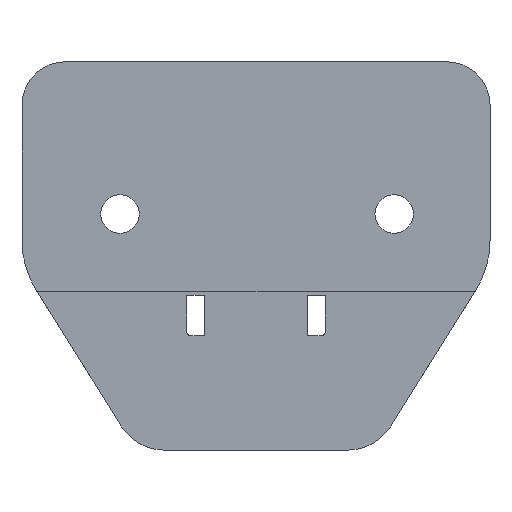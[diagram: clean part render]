
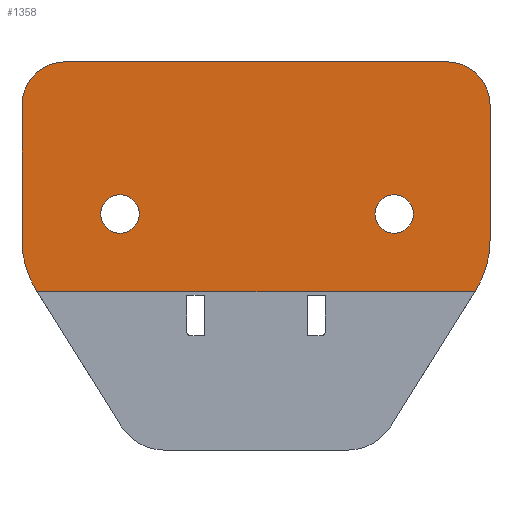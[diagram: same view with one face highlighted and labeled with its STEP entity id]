
A CAD part, front view. The second image highlights one B-rep face of the part: STEP entity #1358.
In plain terms, the highlighted planar face has unit normal (0, -1, 0).
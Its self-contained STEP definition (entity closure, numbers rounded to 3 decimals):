
#48 = CARTESIAN_POINT ( 'NONE',  ( -3.193, -12.743, -3.995 ) ) ;
#59 = DIRECTION ( 'NONE',  ( 0.53, 0., 0.848 ) ) ;
#82 = CIRCLE ( 'NONE', #2235, 11. ) ;
#94 = DIRECTION ( 'NONE',  ( 0., 1., 0. ) ) ;
#117 = AXIS2_PLACEMENT_3D ( 'NONE', #1435, #94, #1649 ) ;
#125 = CARTESIAN_POINT ( 'NONE',  ( -45.122, -12.743, 1.834 ) ) ;
#151 = CARTESIAN_POINT ( 'NONE',  ( -12.693, -12.743, 4.93 ) ) ;
#166 = LINE ( 'NONE', #606, #2458 ) ;
#249 = CIRCLE ( 'NONE', #1148, 2.245 ) ;
#271 = DIRECTION ( 'NONE',  ( 0., -1., 0. ) ) ;
#273 = CIRCLE ( 'NONE', #1701, 2.245 ) ;
#281 = CARTESIAN_POINT ( 'NONE',  ( -14.939, -12.743, 4.93 ) ) ;
#287 = VECTOR ( 'NONE', #1803, 1000. ) ;
#328 = VERTEX_POINT ( 'NONE', #499 ) ;
#339 = AXIS2_PLACEMENT_3D ( 'NONE', #783, #1254, #997 ) ;
#391 = CARTESIAN_POINT ( 'NONE',  ( -51.122, -12.743, 22.68 ) ) ;
#414 = EDGE_CURVE ( 'NONE', #2600, #952, #1440, .T. ) ;
#459 = ORIENTED_EDGE ( 'NONE', *, *, #676, .T. ) ;
#462 = VERTEX_POINT ( 'NONE', #1443 ) ;
#499 = CARTESIAN_POINT ( 'NONE',  ( -1.522, -12.743, 17.68 ) ) ;
#515 = EDGE_CURVE ( 'NONE', #983, #2154, #1740, .T. ) ;
#593 = VERTEX_POINT ( 'NONE', #2016 ) ;
#606 = CARTESIAN_POINT ( 'NONE',  ( -51.122, -12.743, 22.68 ) ) ;
#653 = EDGE_CURVE ( 'NONE', #1490, #593, #1017, .T. ) ;
#676 = EDGE_CURVE ( 'NONE', #462, #2290, #2554, .T. ) ;
#678 = DIRECTION ( 'NONE',  ( 1., 0., 0. ) ) ;
#693 = CARTESIAN_POINT ( 'NONE',  ( -46.939, -12.743, 4.93 ) ) ;
#729 = EDGE_CURVE ( 'NONE', #1287, #2600, #2351, .T. ) ;
#783 = CARTESIAN_POINT ( 'NONE',  ( -6.522, -12.743, 17.68 ) ) ;
#831 = FACE_BOUND ( 'NONE', #1407, .T. ) ;
#877 = CARTESIAN_POINT ( 'NONE',  ( -56.122, -12.743, 1.834 ) ) ;
#880 = LINE ( 'NONE', #1236, #287 ) ;
#887 = CARTESIAN_POINT ( 'NONE',  ( -56.122, -12.743, 17.68 ) ) ;
#897 = FACE_OUTER_BOUND ( 'NONE', #1629, .T. ) ;
#901 = VERTEX_POINT ( 'NONE', #1512 ) ;
#930 = ORIENTED_EDGE ( 'NONE', *, *, #1116, .F. ) ;
#952 = VERTEX_POINT ( 'NONE', #391 ) ;
#983 = VERTEX_POINT ( 'NONE', #48 ) ;
#997 = DIRECTION ( 'NONE',  ( 1., 0., 0. ) ) ;
#1006 = ORIENTED_EDGE ( 'NONE', *, *, #729, .F. ) ;
#1017 = CIRCLE ( 'NONE', #2637, 2.245 ) ;
#1041 = DIRECTION ( 'NONE',  ( 1., 0., 0. ) ) ;
#1045 = LINE ( 'NONE', #2171, #2728 ) ;
#1059 = VERTEX_POINT ( 'NONE', #693 ) ;
#1116 = EDGE_CURVE ( 'NONE', #2691, #1059, #273, .T. ) ;
#1138 = EDGE_CURVE ( 'NONE', #1059, #2691, #1398, .T. ) ;
#1148 = AXIS2_PLACEMENT_3D ( 'NONE', #1527, #2559, #1041 ) ;
#1163 = ORIENTED_EDGE ( 'NONE', *, *, #2148, .F. ) ;
#1183 = DIRECTION ( 'NONE',  ( 1., 0., 0. ) ) ;
#1236 = CARTESIAN_POINT ( 'NONE',  ( -56.122, -12.743, -4.12 ) ) ;
#1254 = DIRECTION ( 'NONE',  ( 0., 1., 0. ) ) ;
#1261 = VECTOR ( 'NONE', #2718, 1000. ) ;
#1282 = EDGE_CURVE ( 'NONE', #901, #983, #1045, .T. ) ;
#1287 = VERTEX_POINT ( 'NONE', #877 ) ;
#1358 = ADVANCED_FACE ( 'NONE', ( #897, #831, #2586 ), #1566, .T. ) ;
#1375 = EDGE_CURVE ( 'NONE', #952, #2159, #166, .T. ) ;
#1398 = CIRCLE ( 'NONE', #2129, 2.245 ) ;
#1407 = EDGE_LOOP ( 'NONE', ( #930, #1790 ) ) ;
#1435 = CARTESIAN_POINT ( 'NONE',  ( -51.122, -12.743, 17.68 ) ) ;
#1440 = CIRCLE ( 'NONE', #117, 5. ) ;
#1443 = CARTESIAN_POINT ( 'NONE',  ( -54.45, -12.743, -3.995 ) ) ;
#1486 = CIRCLE ( 'NONE', #339, 5. ) ;
#1490 = VERTEX_POINT ( 'NONE', #281 ) ;
#1512 = CARTESIAN_POINT ( 'NONE',  ( -3.271, -12.743, -4.12 ) ) ;
#1527 = CARTESIAN_POINT ( 'NONE',  ( -12.693, -12.743, 4.93 ) ) ;
#1563 = CARTESIAN_POINT ( 'NONE',  ( -54.372, -12.743, -4.12 ) ) ;
#1566 = PLANE ( 'NONE',  #2229 ) ;
#1611 = AXIS2_PLACEMENT_3D ( 'NONE', #2276, #2473, #1684 ) ;
#1629 = EDGE_LOOP ( 'NONE', ( #1788, #1804, #2400, #2668, #2360, #2772, #1006, #2515, #459, #2335 ) ) ;
#1649 = DIRECTION ( 'NONE',  ( 1., 0., 0. ) ) ;
#1684 = DIRECTION ( 'NONE',  ( 1., 0., 0. ) ) ;
#1701 = AXIS2_PLACEMENT_3D ( 'NONE', #2045, #271, #2513 ) ;
#1740 = CIRCLE ( 'NONE', #1611, 11. ) ;
#1783 = ORIENTED_EDGE ( 'NONE', *, *, #653, .F. ) ;
#1788 = ORIENTED_EDGE ( 'NONE', *, *, #1282, .T. ) ;
#1790 = ORIENTED_EDGE ( 'NONE', *, *, #1138, .F. ) ;
#1803 = DIRECTION ( 'NONE',  ( -1., 0., 0. ) ) ;
#1804 = ORIENTED_EDGE ( 'NONE', *, *, #515, .T. ) ;
#1806 = DIRECTION ( 'NONE',  ( 1., 0., 0. ) ) ;
#1852 = EDGE_CURVE ( 'NONE', #901, #2290, #880, .T. ) ;
#1865 = EDGE_CURVE ( 'NONE', #2159, #328, #1486, .T. ) ;
#1915 = CARTESIAN_POINT ( 'NONE',  ( -6.522, -12.743, 22.68 ) ) ;
#1942 = DIRECTION ( 'NONE',  ( 0., 0., -1. ) ) ;
#2001 = DIRECTION ( 'NONE',  ( 0., -1., 0. ) ) ;
#2013 = DIRECTION ( 'NONE',  ( 0., -1., 0. ) ) ;
#2016 = CARTESIAN_POINT ( 'NONE',  ( -10.448, -12.743, 4.93 ) ) ;
#2045 = CARTESIAN_POINT ( 'NONE',  ( -44.693, -12.743, 4.93 ) ) ;
#2129 = AXIS2_PLACEMENT_3D ( 'NONE', #2839, #2013, #2438 ) ;
#2148 = EDGE_CURVE ( 'NONE', #593, #1490, #249, .T. ) ;
#2154 = VERTEX_POINT ( 'NONE', #2383 ) ;
#2159 = VERTEX_POINT ( 'NONE', #1915 ) ;
#2171 = CARTESIAN_POINT ( 'NONE',  ( -1.522, -12.743, -1.32 ) ) ;
#2187 = VECTOR ( 'NONE', #1942, 1000. ) ;
#2229 = AXIS2_PLACEMENT_3D ( 'NONE', #2578, #2434, #1806 ) ;
#2235 = AXIS2_PLACEMENT_3D ( 'NONE', #125, #2771, #1183 ) ;
#2254 = LINE ( 'NONE', #2332, #2187 ) ;
#2268 = DIRECTION ( 'NONE',  ( 0.53, 0., -0.848 ) ) ;
#2276 = CARTESIAN_POINT ( 'NONE',  ( -12.522, -12.743, 1.834 ) ) ;
#2290 = VERTEX_POINT ( 'NONE', #2307 ) ;
#2307 = CARTESIAN_POINT ( 'NONE',  ( -54.372, -12.743, -4.12 ) ) ;
#2332 = CARTESIAN_POINT ( 'NONE',  ( -1.522, -12.743, 0.4 ) ) ;
#2335 = ORIENTED_EDGE ( 'NONE', *, *, #1852, .F. ) ;
#2336 = EDGE_CURVE ( 'NONE', #1287, #462, #82, .T. ) ;
#2351 = LINE ( 'NONE', #2642, #1261 ) ;
#2360 = ORIENTED_EDGE ( 'NONE', *, *, #1375, .F. ) ;
#2383 = CARTESIAN_POINT ( 'NONE',  ( -1.522, -12.743, 1.834 ) ) ;
#2386 = CARTESIAN_POINT ( 'NONE',  ( -42.448, -12.743, 4.93 ) ) ;
#2400 = ORIENTED_EDGE ( 'NONE', *, *, #2596, .F. ) ;
#2413 = EDGE_LOOP ( 'NONE', ( #1163, #1783 ) ) ;
#2434 = DIRECTION ( 'NONE',  ( 0., -1., 0. ) ) ;
#2438 = DIRECTION ( 'NONE',  ( 1., 0., 0. ) ) ;
#2458 = VECTOR ( 'NONE', #678, 1000. ) ;
#2473 = DIRECTION ( 'NONE',  ( 0., -1., 0. ) ) ;
#2495 = VECTOR ( 'NONE', #2268, 1000. ) ;
#2513 = DIRECTION ( 'NONE',  ( 1., 0., 0. ) ) ;
#2515 = ORIENTED_EDGE ( 'NONE', *, *, #2336, .T. ) ;
#2554 = LINE ( 'NONE', #1563, #2495 ) ;
#2559 = DIRECTION ( 'NONE',  ( 0., -1., 0. ) ) ;
#2578 = CARTESIAN_POINT ( 'NONE',  ( -37.393, -12.743, -2.92 ) ) ;
#2586 = FACE_BOUND ( 'NONE', #2413, .T. ) ;
#2596 = EDGE_CURVE ( 'NONE', #328, #2154, #2254, .T. ) ;
#2600 = VERTEX_POINT ( 'NONE', #887 ) ;
#2637 = AXIS2_PLACEMENT_3D ( 'NONE', #151, #2001, #2671 ) ;
#2642 = CARTESIAN_POINT ( 'NONE',  ( -56.122, -12.743, 17.68 ) ) ;
#2668 = ORIENTED_EDGE ( 'NONE', *, *, #1865, .F. ) ;
#2671 = DIRECTION ( 'NONE',  ( 1., 0., 0. ) ) ;
#2691 = VERTEX_POINT ( 'NONE', #2386 ) ;
#2718 = DIRECTION ( 'NONE',  ( 0., 0., 1. ) ) ;
#2728 = VECTOR ( 'NONE', #59, 1000. ) ;
#2771 = DIRECTION ( 'NONE',  ( 0., -1., 0. ) ) ;
#2772 = ORIENTED_EDGE ( 'NONE', *, *, #414, .F. ) ;
#2839 = CARTESIAN_POINT ( 'NONE',  ( -44.693, -12.743, 4.93 ) ) ;
